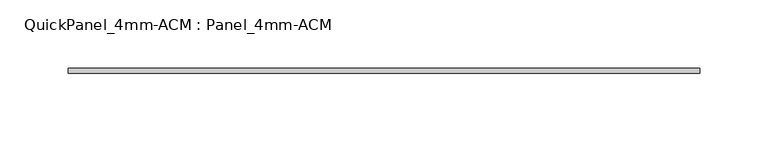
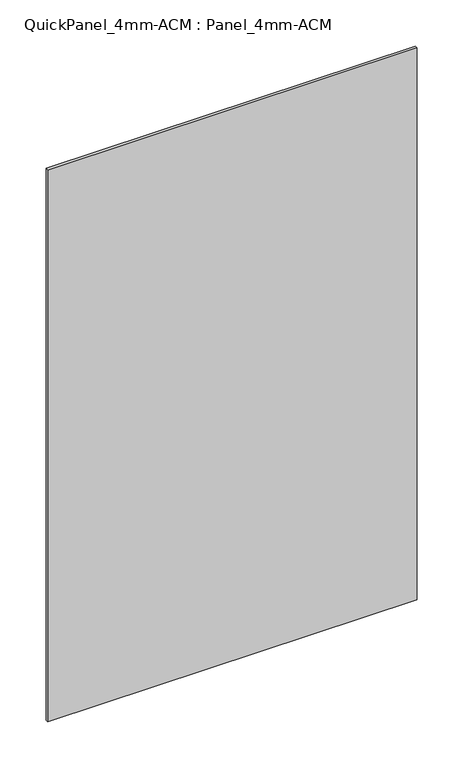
"""IFC4 building model written with IfcOpenShell, lengths in millimetres: plate geometry, QuickPanel_4mm-ACM : Panel_4mm-ACM."""

from ifc_helpers import new_model, si_unit, origin, origin_with_axes, place, context, project, spatial, polyline, outline, extrude, source, transform, mapped, element, save


def quickpanel_4mm_acm_panel_4mm_acm_177c280e(model_context):
    return source(origin(), model_context, "Body", "SweptSolid", [
        extrude(outline(polyline([(-231.83849, 6.096), (-231.83849, 9.906), (231.83849, 9.906), (231.83849, 6.096), (-231.83849, 6.096)])), origin_with_axes(), (0.0, 0.0, 1.0), 731.7965616),
    ])


if __name__ == "__main__":
    model = new_model("IFC4")
    model_context = context("Model", 3, world=origin())
    ifc_project = project(units=[si_unit("LENGTHUNIT", "METRE", prefix="MILLI")], contexts=[model_context])
    site = spatial("IfcSite", under=ifc_project)
    building = spatial("IfcBuilding", under=site)
    placement = place(None, origin())
    quickpanel_4mm_acm_panel_4mm_acm_shape = quickpanel_4mm_acm_panel_4mm_acm_177c280e(model_context)
    element("IfcPlate", 1, ObjectType="QuickPanel_4mm-ACM : Panel_4mm-ACM", at=placement, inside=building, context=model_context, shape_type="MappedRepresentation", body=[
        mapped(quickpanel_4mm_acm_panel_4mm_acm_shape, transform((0.0, 0.0, 0.0), x_axis=(1.0, 0.0, 0.0), y_axis=(0.0, 1.0, 0.0), z_axis=(0.0, 0.0, 1.0))),
    ])
    save(model, "model.ifc")
